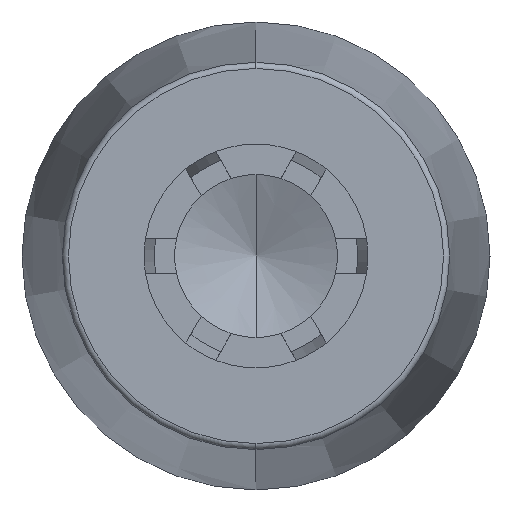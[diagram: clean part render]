
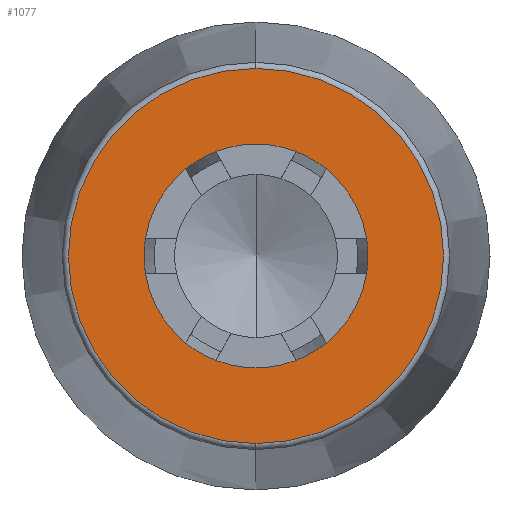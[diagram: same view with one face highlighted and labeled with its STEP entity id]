
A CAD part, left-side view. The second image highlights one B-rep face of the part: STEP entity #1077.
In plain terms, the highlighted planar face has unit normal (-1, 0, 0).
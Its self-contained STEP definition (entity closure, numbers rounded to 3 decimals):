
#2 = ORIENTED_EDGE ( 'NONE', *, *, #505, .T. ) ;
#9 = EDGE_CURVE ( 'NONE', #585, #1658, #1443, .T. ) ;
#19 = EDGE_CURVE ( 'NONE', #585, #914, #37, .T. ) ;
#31 = VERTEX_POINT ( 'NONE', #519 ) ;
#37 = CIRCLE ( 'NONE', #1042, 5.5 ) ;
#39 = CIRCLE ( 'NONE', #1375, 5.5 ) ;
#40 = AXIS2_PLACEMENT_3D ( 'NONE', #1651, #935, #1512 ) ;
#49 = DIRECTION ( 'NONE',  ( 0., 0., -1. ) ) ;
#51 = DIRECTION ( 'NONE',  ( 0., 0., 1. ) ) ;
#59 = DIRECTION ( 'NONE',  ( -1., 0., 0. ) ) ;
#78 = CARTESIAN_POINT ( 'NONE',  ( 0., 0., 0. ) ) ;
#103 = EDGE_CURVE ( 'NONE', #1814, #914, #1474, .T. ) ;
#106 = CARTESIAN_POINT ( 'NONE',  ( 0., -3.453, -4.281 ) ) ;
#137 = CARTESIAN_POINT ( 'NONE',  ( 0., 0., 0. ) ) ;
#178 = CARTESIAN_POINT ( 'NONE',  ( 0., -1.981, 5.131 ) ) ;
#181 = CARTESIAN_POINT ( 'NONE',  ( 0., -3.453, 4.281 ) ) ;
#188 = AXIS2_PLACEMENT_3D ( 'NONE', #1227, #1378, #779 ) ;
#189 = EDGE_CURVE ( 'NONE', #809, #1658, #1777, .T. ) ;
#201 = CIRCLE ( 'NONE', #377, 5.5 ) ;
#208 = EDGE_CURVE ( 'NONE', #1243, #462, #589, .T. ) ;
#239 = DIRECTION ( 'NONE',  ( -1., 0., 0. ) ) ;
#241 = VERTEX_POINT ( 'NONE', #641 ) ;
#258 = VERTEX_POINT ( 'NONE', #181 ) ;
#280 = VERTEX_POINT ( 'NONE', #774 ) ;
#282 = ORIENTED_EDGE ( 'NONE', *, *, #587, .F. ) ;
#293 = CARTESIAN_POINT ( 'NONE',  ( 0., 0., 0. ) ) ;
#322 = DIRECTION ( 'NONE',  ( 1., 0., 0. ) ) ;
#323 = DIRECTION ( 'NONE',  ( 0., 0., 1. ) ) ;
#368 = CARTESIAN_POINT ( 'NONE',  ( 0., 0., 0. ) ) ;
#377 = AXIS2_PLACEMENT_3D ( 'NONE', #1773, #1644, #887 ) ;
#385 = PLANE ( 'NONE',  #1197 ) ;
#392 = EDGE_CURVE ( 'NONE', #31, #280, #1504, .T. ) ;
#394 = CARTESIAN_POINT ( 'NONE',  ( 0., 0., -9.219 ) ) ;
#430 = DIRECTION ( 'NONE',  ( 0., 0., 1. ) ) ;
#436 = ORIENTED_EDGE ( 'NONE', *, *, #1823, .T. ) ;
#462 = VERTEX_POINT ( 'NONE', #1521 ) ;
#478 = DIRECTION ( 'NONE',  ( -1., 0., 0. ) ) ;
#494 = EDGE_CURVE ( 'NONE', #462, #241, #1254, .T. ) ;
#505 = EDGE_CURVE ( 'NONE', #1243, #258, #958, .T. ) ;
#519 = CARTESIAN_POINT ( 'NONE',  ( 0., 5.434, -0.85 ) ) ;
#525 = ORIENTED_EDGE ( 'NONE', *, *, #189, .F. ) ;
#526 = AXIS2_PLACEMENT_3D ( 'NONE', #293, #1137, #430 ) ;
#539 = DIRECTION ( 'NONE',  ( -1., 0., 0. ) ) ;
#550 = DIRECTION ( 'NONE',  ( 1., 0., 0. ) ) ;
#571 = VERTEX_POINT ( 'NONE', #800 ) ;
#585 = VERTEX_POINT ( 'NONE', #106 ) ;
#587 = EDGE_CURVE ( 'NONE', #1814, #258, #39, .T. ) ;
#588 = AXIS2_PLACEMENT_3D ( 'NONE', #1055, #1791, #323 ) ;
#589 = CIRCLE ( 'NONE', #588, 5.5 ) ;
#624 = CARTESIAN_POINT ( 'NONE',  ( 0., 0., 0. ) ) ;
#641 = CARTESIAN_POINT ( 'NONE',  ( 0., 1.981, 5.131 ) ) ;
#645 = DIRECTION ( 'NONE',  ( 0., 0., -1. ) ) ;
#651 = AXIS2_PLACEMENT_3D ( 'NONE', #1798, #322, #645 ) ;
#657 = DIRECTION ( 'NONE',  ( -1., 0., 0. ) ) ;
#665 = CARTESIAN_POINT ( 'NONE',  ( 0., 0., 0. ) ) ;
#673 = DIRECTION ( 'NONE',  ( 0., 0., 1. ) ) ;
#696 = CARTESIAN_POINT ( 'NONE',  ( 0., -5.434, -0.85 ) ) ;
#701 = CARTESIAN_POINT ( 'NONE',  ( 0., 5.5, 0. ) ) ;
#706 = ORIENTED_EDGE ( 'NONE', *, *, #1674, .T. ) ;
#716 = CIRCLE ( 'NONE', #1167, 9.219 ) ;
#727 = ORIENTED_EDGE ( 'NONE', *, *, #392, .F. ) ;
#738 = AXIS2_PLACEMENT_3D ( 'NONE', #624, #478, #917 ) ;
#751 = EDGE_CURVE ( 'NONE', #809, #280, #1835, .T. ) ;
#756 = DIRECTION ( 'NONE',  ( -1., 0., 0. ) ) ;
#763 = ORIENTED_EDGE ( 'NONE', *, *, #864, .T. ) ;
#774 = CARTESIAN_POINT ( 'NONE',  ( 0., 3.453, -4.281 ) ) ;
#779 = DIRECTION ( 'NONE',  ( 0., 0., -1. ) ) ;
#800 = CARTESIAN_POINT ( 'NONE',  ( 0., 3.453, 4.281 ) ) ;
#802 = ORIENTED_EDGE ( 'NONE', *, *, #103, .T. ) ;
#805 = AXIS2_PLACEMENT_3D ( 'NONE', #1365, #59, #51 ) ;
#808 = CIRCLE ( 'NONE', #1537, 9.219 ) ;
#809 = VERTEX_POINT ( 'NONE', #1825 ) ;
#831 = AXIS2_PLACEMENT_3D ( 'NONE', #368, #550, #1398 ) ;
#850 = CARTESIAN_POINT ( 'NONE',  ( 0., -5.434, 0.85 ) ) ;
#864 = EDGE_CURVE ( 'NONE', #1091, #1878, #716, .T. ) ;
#865 = DIRECTION ( 'NONE',  ( 1., 0., 0. ) ) ;
#871 = CIRCLE ( 'NONE', #40, 5.5 ) ;
#876 = ORIENTED_EDGE ( 'NONE', *, *, #953, .F. ) ;
#887 = DIRECTION ( 'NONE',  ( 0., 0., -1. ) ) ;
#914 = VERTEX_POINT ( 'NONE', #696 ) ;
#917 = DIRECTION ( 'NONE',  ( 0., 0., 1. ) ) ;
#929 = ORIENTED_EDGE ( 'NONE', *, *, #1232, .T. ) ;
#935 = DIRECTION ( 'NONE',  ( -1., 0., 0. ) ) ;
#953 = EDGE_CURVE ( 'NONE', #571, #1639, #871, .T. ) ;
#958 = CIRCLE ( 'NONE', #651, 5.5 ) ;
#998 = ORIENTED_EDGE ( 'NONE', *, *, #9, .T. ) ;
#1042 = AXIS2_PLACEMENT_3D ( 'NONE', #78, #239, #673 ) ;
#1050 = ORIENTED_EDGE ( 'NONE', *, *, #751, .T. ) ;
#1055 = CARTESIAN_POINT ( 'NONE',  ( 0., 0., 0. ) ) ;
#1065 = EDGE_LOOP ( 'NONE', ( #876, #436, #1168, #1129, #2, #282, #802, #1120, #998, #525, #1050, #727, #706 ) ) ;
#1077 = ADVANCED_FACE ( 'NONE', ( #1583, #1859 ), #385, .F. ) ;
#1091 = VERTEX_POINT ( 'NONE', #394 ) ;
#1093 = DIRECTION ( 'NONE',  ( 0., 0., 1. ) ) ;
#1120 = ORIENTED_EDGE ( 'NONE', *, *, #19, .F. ) ;
#1129 = ORIENTED_EDGE ( 'NONE', *, *, #208, .F. ) ;
#1137 = DIRECTION ( 'NONE',  ( -1., 0., 0. ) ) ;
#1167 = AXIS2_PLACEMENT_3D ( 'NONE', #665, #657, #1244 ) ;
#1168 = ORIENTED_EDGE ( 'NONE', *, *, #494, .F. ) ;
#1197 = AXIS2_PLACEMENT_3D ( 'NONE', #701, #865, #1425 ) ;
#1213 = CIRCLE ( 'NONE', #1732, 5.5 ) ;
#1227 = CARTESIAN_POINT ( 'NONE',  ( 0., 0., 0. ) ) ;
#1232 = EDGE_CURVE ( 'NONE', #1878, #1091, #808, .T. ) ;
#1243 = VERTEX_POINT ( 'NONE', #178 ) ;
#1244 = DIRECTION ( 'NONE',  ( 0., 0., -1. ) ) ;
#1254 = CIRCLE ( 'NONE', #805, 5.5 ) ;
#1281 = DIRECTION ( 'NONE',  ( 1., 0., 0. ) ) ;
#1342 = CARTESIAN_POINT ( 'NONE',  ( 0., 5.434, 0.85 ) ) ;
#1365 = CARTESIAN_POINT ( 'NONE',  ( 0., 0., 0. ) ) ;
#1375 = AXIS2_PLACEMENT_3D ( 'NONE', #1677, #539, #1093 ) ;
#1378 = DIRECTION ( 'NONE',  ( 1., 0., 0. ) ) ;
#1398 = DIRECTION ( 'NONE',  ( 0., 0., -1. ) ) ;
#1408 = EDGE_LOOP ( 'NONE', ( #763, #929 ) ) ;
#1425 = DIRECTION ( 'NONE',  ( 0., 0., -1. ) ) ;
#1443 = CIRCLE ( 'NONE', #831, 5.5 ) ;
#1468 = CARTESIAN_POINT ( 'NONE',  ( 0., 0., 9.219 ) ) ;
#1474 = CIRCLE ( 'NONE', #1804, 5.5 ) ;
#1483 = CARTESIAN_POINT ( 'NONE',  ( 0., -1.981, -5.131 ) ) ;
#1504 = CIRCLE ( 'NONE', #526, 5.5 ) ;
#1512 = DIRECTION ( 'NONE',  ( 0., 0., 1. ) ) ;
#1519 = CARTESIAN_POINT ( 'NONE',  ( 0., 0., 0. ) ) ;
#1521 = CARTESIAN_POINT ( 'NONE',  ( 0., 0., 5.5 ) ) ;
#1537 = AXIS2_PLACEMENT_3D ( 'NONE', #1519, #756, #49 ) ;
#1583 = FACE_OUTER_BOUND ( 'NONE', #1408, .T. ) ;
#1589 = DIRECTION ( 'NONE',  ( 0., 0., -1. ) ) ;
#1639 = VERTEX_POINT ( 'NONE', #1342 ) ;
#1644 = DIRECTION ( 'NONE',  ( 1., 0., 0. ) ) ;
#1651 = CARTESIAN_POINT ( 'NONE',  ( 0., 0., 0. ) ) ;
#1658 = VERTEX_POINT ( 'NONE', #1483 ) ;
#1674 = EDGE_CURVE ( 'NONE', #31, #1639, #201, .T. ) ;
#1677 = CARTESIAN_POINT ( 'NONE',  ( 0., 0., 0. ) ) ;
#1720 = CARTESIAN_POINT ( 'NONE',  ( 0., 0., 0. ) ) ;
#1732 = AXIS2_PLACEMENT_3D ( 'NONE', #1720, #1281, #1862 ) ;
#1741 = DIRECTION ( 'NONE',  ( 1., 0., 0. ) ) ;
#1773 = CARTESIAN_POINT ( 'NONE',  ( 0., 0., 0. ) ) ;
#1777 = CIRCLE ( 'NONE', #738, 5.5 ) ;
#1791 = DIRECTION ( 'NONE',  ( -1., 0., 0. ) ) ;
#1798 = CARTESIAN_POINT ( 'NONE',  ( 0., 0., 0. ) ) ;
#1804 = AXIS2_PLACEMENT_3D ( 'NONE', #137, #1741, #1589 ) ;
#1814 = VERTEX_POINT ( 'NONE', #850 ) ;
#1823 = EDGE_CURVE ( 'NONE', #571, #241, #1213, .T. ) ;
#1825 = CARTESIAN_POINT ( 'NONE',  ( 0., 1.981, -5.131 ) ) ;
#1835 = CIRCLE ( 'NONE', #188, 5.5 ) ;
#1859 = FACE_BOUND ( 'NONE', #1065, .T. ) ;
#1862 = DIRECTION ( 'NONE',  ( 0., 0., -1. ) ) ;
#1878 = VERTEX_POINT ( 'NONE', #1468 ) ;
